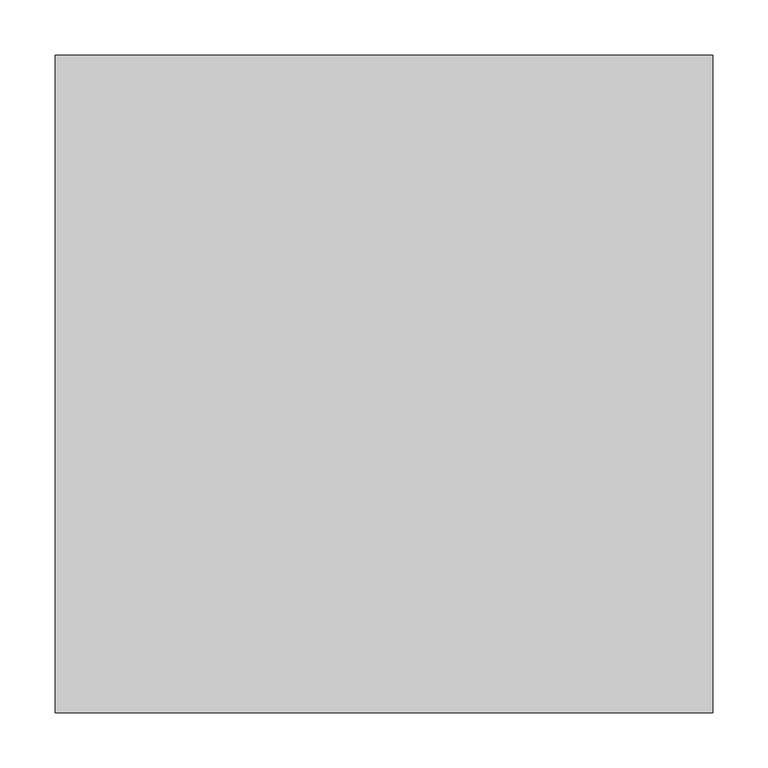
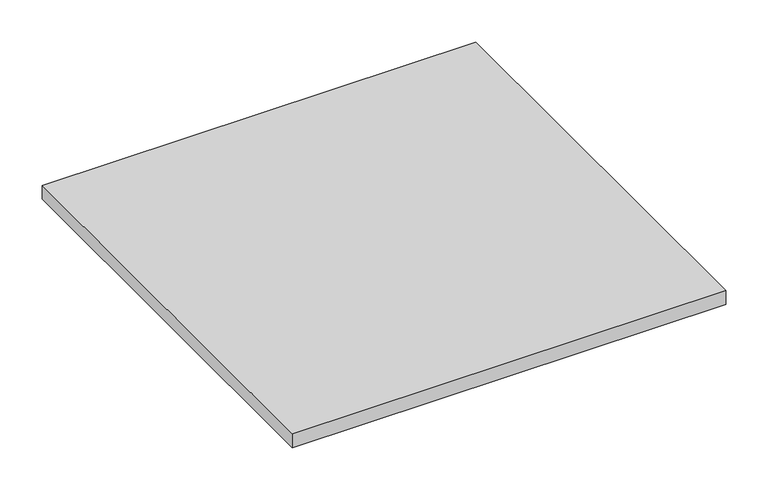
"""IFC4 building model written with IfcOpenShell, lengths in millimetres: light fixture geometry, GENILED_Светильник светодиодный_Офис Advanced : Офис Advanced 595x595x20 100Вт Опал."""

from ifc_helpers import new_model, si_unit, origin, place, context, project, spatial, faceted_brep, source, transform, mapped, element, save


def light_fixture_58f65422(model_context):
    return source(origin(), model_context, "Body", "Brep", [
        faceted_brep([(297.5, 297.5, 20.0), (-297.5, 297.5, 20.0), (-297.5, -297.5, 20.0), (297.5, -297.5, 20.0), (297.5, 297.5, 0.0), (297.5, -297.5, 0.0), (-297.5, -297.5, 0.0), (-297.5, 297.5, 0.0), (287.5, 287.5, 0.0), (-287.5, 287.5, 0.0), (-287.5, -287.5, 0.0), (287.5, -287.5, 0.0), (287.5, -287.5, 5.0), (287.5, 287.5, 5.0), (-287.5, -287.5, 5.0), (-287.5, 287.5, 5.0)], [[[0, 1, 2, 3]], [[4, 5, 6, 7], [8, 9, 10, 11]], [[1, 0, 4, 7]], [[2, 1, 7, 6]], [[3, 2, 6, 5]], [[0, 3, 5, 4]], [[8, 11, 12, 13]], [[11, 10, 14, 12]], [[10, 9, 15, 14]], [[9, 8, 13, 15]], [[13, 12, 14, 15]]]),
    ])


if __name__ == "__main__":
    model = new_model("IFC4")
    model_context = context("Model", 3, world=origin())
    ifc_project = project(units=[si_unit("LENGTHUNIT", "METRE", prefix="MILLI")], contexts=[model_context])
    site = spatial("IfcSite", under=ifc_project)
    building = spatial("IfcBuilding", under=site)
    placement = place(None, origin())
    light_fixture_shape = light_fixture_58f65422(model_context)
    element("IfcLightFixture", 1, ObjectType="GENILED_Светильник светодиодный_Офис Advanced : Офис Advanced 595x595x20 100Вт Опал", at=placement, inside=building, context=model_context, shape_type="MappedRepresentation", body=[
        mapped(light_fixture_shape, transform((0.0, 0.0, 0.0), x_axis=(1.0, 0.0, 0.0), y_axis=(0.0, 1.0, 0.0), z_axis=(0.0, 0.0, 1.0))),
    ])
    save(model, "model.ifc")
